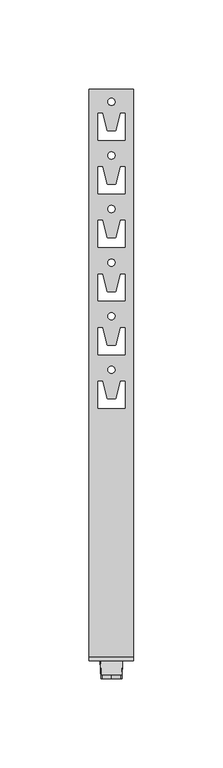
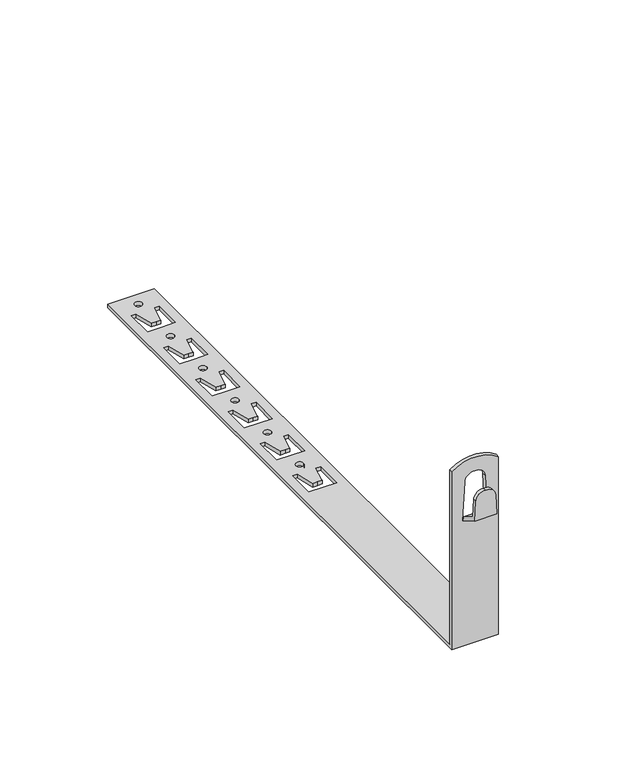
"""IFC4 building model written with IfcOpenShell, lengths in millimetres: proxy geometry, КНС_ДержательПрямойПодЧерепицу_DKC : ND2209_Сталь горячеоцинкованная_330 мм."""

from ifc_helpers import new_model, si_unit, frame, origin, place, context, project, spatial, polyline, circle_curve, source, transform, mapped, element, save
from ifc_brep_helpers import plane_surface, cylinder_surface, revolved_surface, advanced_brep


def security_devices_d11747f8(model_context):
    return source(origin(), model_context, "Body", "AdvancedBrep", [
        advanced_brep(
        [(5.3645288, 0.0, 87.6660817), (0.0, 0.0, 92.1674559), (-5.3645288, 0.0, 87.6660817), (-5.9353846, 0.0, 76.7735027), (5.9353846, 0.0, 76.7735027), (6.2379611, 10.0, 71.0), (-6.2379611, 10.0, 71.0), (-6.1169305, 10.0, 73.3094011), (6.1169305, 10.0, 73.3094011), (-5.3645288, 2.0, 87.6660817), (-5.8748694, 2.0, 77.9282032), (5.8748694, 2.0, 77.9282032), (5.3645288, 2.0, 87.6660817), (0.0, 2.0, 92.1674559)],
        [
            (0, 1, circle_curve(frame((0.5834648, 0.0, 87.4155168), z_axis=(0.0, -1.0, 0.0), x_axis=(1.0, 0.0, 0.0)), 4.7876253)),
            (1, 2, circle_curve(frame((-0.5834648, 0.0, 87.4155168), z_axis=(0.0, -1.0, 0.0), x_axis=(1.0, 0.0, 0.0)), 4.7876253)),
            (2, 3),
            (3, 4),
            (4, 0),
            (5, 6),
            (6, 7),
            (7, 8),
            (8, 5),
            (2, 9),
            (9, 10),
            (10, 7),
            (6, 3),
            (4, 5),
            (8, 11),
            (11, 12),
            (12, 0),
            (12, 13, circle_curve(frame((0.5834648, 2.0, 87.4155168), z_axis=(0.0, -1.0, 0.0), x_axis=(1.0, 0.0, 0.0)), 4.7876253)),
            (13, 1),
            (13, 9, circle_curve(frame((-0.5834648, 2.0, 87.4155168), z_axis=(0.0, -1.0, 0.0), x_axis=(1.0, 0.0, 0.0)), 4.7876253)),
            (10, 11),
        ],
        [
            plane_surface(frame((-6.2414541, 0.0, 70.9333499), z_axis=(0.0, -1.0, 0.0), x_axis=(-0.05233595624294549, 0.0, -0.9986295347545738))),
            plane_surface(frame((-6.2414541, 10.0, 70.9333499), z_axis=(0.0, 1.0, 0.0), x_axis=(0.05233595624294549, 0.0, 0.9986295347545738))),
            plane_surface(frame((-5.3645288, 0.0, 87.6660817), z_axis=(-0.9986295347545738, 0.0, 0.05233595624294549), x_axis=(0.0, 1.0, 0.0))),
            plane_surface(frame((6.2379611, 0.0, 71.0), z_axis=(0.9986295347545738, 0.0, 0.05233595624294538), x_axis=(0.0, 1.0, 0.0))),
            cylinder_surface(frame((0.5834648, 10.0, 87.4155168), z_axis=(0.0, -1.0, 0.0), x_axis=(1.0, 0.0, 0.0)), 4.7876253),
            cylinder_surface(frame((-0.5834648, 10.0, 87.4155168), z_axis=(0.0, -1.0, 0.0), x_axis=(1.0, 0.0, 0.0)), 4.7876253),
            plane_surface(frame((12.5, 10.0, 71.0), z_axis=(0.0, -0.5000000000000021, -0.8660254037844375), x_axis=(-1.0, 0.0, 0.0))),
            plane_surface(frame((12.5, 2.0, 77.9282032), z_axis=(0.0, 0.5000000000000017, 0.8660254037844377), x_axis=(-1.0, 0.0, 0.0))),
            plane_surface(frame((12.5, 2.0, 102.9372685), z_axis=(0.0, 1.0, 0.0), x_axis=(-1.0, 0.0, 0.0))),
        ],
        [
            (0, [[1, 2, 3, 4, 5]]),
            (1, [[6, 7, 8, 9]]),
            (2, [[-3, 10, 11, 12, -7, 13]]),
            (3, [[-5, 14, -9, 15, 16, 17]]),
            (4, [[-1, -17, 18, 19]]),
            (5, [[-2, -19, 20, -10]]),
            (6, [[-4, -13, -6, -14]]),
            (7, [[21, -15, -8, -12]]),
            (8, [[-21, -11, -20, -18, -16]]),
        ],
    ),
        advanced_brep(
        [(12.5, 330.0, 2.0), (-12.5, 330.0, 2.0), (-12.5, 12.0, 2.0), (12.5, 12.0, 2.0), (-2.0, 322.9763791, 2.0), (2.0, 322.9763791, 2.0), (-7.5, 301.5, 2.0), (-7.5, 316.5981413, 2.0), (-5.0452497, 316.5981413, 2.0), (-2.5276553, 306.5, 2.0), (0.0, 306.5, 2.0), (2.5276553, 306.5, 2.0), (5.0452497, 316.5981413, 2.0), (7.5, 316.5981413, 2.0), (7.5, 301.5, 2.0), (0.0, 301.5, 2.0), (-2.0, 292.9763791, 2.0), (2.0, 292.9763791, 2.0), (-7.5, 271.5, 2.0), (-7.5, 286.5981413, 2.0), (-5.0452497, 286.5981413, 2.0), (-2.5276553, 276.5, 2.0), (0.0, 276.5, 2.0), (2.5276553, 276.5, 2.0), (5.0452497, 286.5981413, 2.0), (7.5, 286.5981413, 2.0), (7.5, 271.5, 2.0), (0.0, 271.5, 2.0), (-2.0, 262.9763791, 2.0), (2.0, 262.9763791, 2.0), (-7.5, 241.5, 2.0), (-7.5, 256.5981413, 2.0), (-5.0452497, 256.5981413, 2.0), (-2.5276553, 246.5, 2.0), (0.0, 246.5, 2.0), (2.5276553, 246.5, 2.0), (5.0452497, 256.5981413, 2.0), (7.5, 256.5981413, 2.0), (7.5, 241.5, 2.0), (0.0, 241.5, 2.0), (-2.0, 232.9763791, 2.0), (2.0, 232.9763791, 2.0), (-7.5, 211.5, 2.0), (-7.5, 226.5981413, 2.0), (-5.0452497, 226.5981413, 2.0), (-2.5276553, 216.5, 2.0), (0.0, 216.5, 2.0), (2.5276553, 216.5, 2.0), (5.0452497, 226.5981413, 2.0), (7.5, 226.5981413, 2.0), (7.5, 211.5, 2.0), (0.0, 211.5, 2.0), (-2.0, 202.9763791, 2.0), (2.0, 202.9763791, 2.0), (-7.5, 181.5, 2.0), (-7.5, 196.5981413, 2.0), (-5.0452497, 196.5981413, 2.0), (-2.5276553, 186.5, 2.0), (0.0, 186.5, 2.0), (2.5276553, 186.5, 2.0), (5.0452497, 196.5981413, 2.0), (7.5, 196.5981413, 2.0), (7.5, 181.5, 2.0), (0.0, 181.5, 2.0), (-2.0, 172.9763791, 2.0), (2.0, 172.9763791, 2.0), (-7.5, 151.5, 2.0), (-7.5, 166.5981413, 2.0), (-5.0452497, 166.5981413, 2.0), (-2.5276553, 156.5, 2.0), (0.0, 156.5, 2.0), (2.5276553, 156.5, 2.0), (5.0452497, 166.5981413, 2.0), (7.5, 166.5981413, 2.0), (7.5, 151.5, 2.0), (0.0, 151.5, 2.0), (12.5, 330.0, 0.0), (12.5, 10.0, 0.0), (-12.5, 10.0, 0.0), (-12.5, 330.0, 0.0), (-2.0, 322.9763791, 0.0), (2.0, 322.9763791, 0.0), (-7.5, 301.5, 0.0), (0.0, 301.5, 0.0), (7.5, 301.5, 0.0), (7.5, 316.5981413, 0.0), (5.0452497, 316.5981413, 0.0), (2.5276553, 306.5, 0.0), (0.0, 306.5, 0.0), (-2.5276553, 306.5, 0.0), (-5.0452497, 316.5981413, 0.0), (-7.5, 316.5981413, 0.0), (-2.0, 292.9763791, 0.0), (2.0, 292.9763791, 0.0), (-7.5, 271.5, 0.0), (0.0, 271.5, 0.0), (7.5, 271.5, 0.0), (7.5, 286.5981413, 0.0), (5.0452497, 286.5981413, 0.0), (2.5276553, 276.5, 0.0), (0.0, 276.5, 0.0), (-2.5276553, 276.5, 0.0), (-5.0452497, 286.5981413, 0.0), (-7.5, 286.5981413, 0.0), (-2.0, 262.9763791, 0.0), (2.0, 262.9763791, 0.0), (-7.5, 241.5, 0.0), (0.0, 241.5, 0.0), (7.5, 241.5, 0.0), (7.5, 256.5981413, 0.0), (5.0452497, 256.5981413, 0.0), (2.5276553, 246.5, 0.0), (0.0, 246.5, 0.0), (-2.5276553, 246.5, 0.0), (-5.0452497, 256.5981413, 0.0), (-7.5, 256.5981413, 0.0), (-2.0, 232.9763791, 0.0), (2.0, 232.9763791, 0.0), (-7.5, 211.5, 0.0), (0.0, 211.5, 0.0), (7.5, 211.5, 0.0), (7.5, 226.5981413, 0.0), (5.0452497, 226.5981413, 0.0), (2.5276553, 216.5, 0.0), (0.0, 216.5, 0.0), (-2.5276553, 216.5, 0.0), (-5.0452497, 226.5981413, 0.0), (-7.5, 226.5981413, 0.0), (-2.0, 202.9763791, 0.0), (2.0, 202.9763791, 0.0), (-7.5, 181.5, 0.0), (0.0, 181.5, 0.0), (7.5, 181.5, 0.0), (7.5, 196.5981413, 0.0), (5.0452497, 196.5981413, 0.0), (2.5276553, 186.5, 0.0), (0.0, 186.5, 0.0), (-2.5276553, 186.5, 0.0), (-5.0452497, 196.5981413, 0.0), (-7.5, 196.5981413, 0.0), (-2.0, 172.9763791, 0.0), (2.0, 172.9763791, 0.0), (-7.5, 151.5, 0.0), (0.0, 151.5, 0.0), (7.5, 151.5, 0.0), (7.5, 166.5981413, 0.0), (5.0452497, 166.5981413, 0.0), (2.5276553, 156.5, 0.0), (0.0, 156.5, 0.0), (-2.5276553, 156.5, 0.0), (-5.0452497, 166.5981413, 0.0), (-7.5, 166.5981413, 0.0), (-12.5, 10.0, 100.874537), (-12.5, 12.0, 100.874537), (12.5, 10.0, 100.874537), (-5.3645288, 10.0, 92.6660817), (0.0, 10.0, 97.1674559), (5.3645288, 10.0, 92.6660817), (6.5, 10.0, 71.0), (-6.5, 10.0, 71.0), (12.5, 12.0, 100.874537), (-5.3645288, 12.0, 92.6660817), (-6.5, 12.0, 71.0), (6.5, 12.0, 71.0), (5.3645288, 12.0, 92.6660817), (0.0, 12.0, 97.1674559)],
        [
            (0, 1),
            (1, 2),
            (2, 3),
            (3, 0),
            (4, 5, circle_curve(frame((0.0, 322.9763791, 2.0), z_axis=(0.0, 0.0, -1.0), x_axis=(1.0, 0.0, 0.0)), 2.0)),
            (5, 4, circle_curve(frame((0.0, 322.9763791, 2.0), z_axis=(0.0, 0.0, -1.0), x_axis=(1.0, 0.0, 0.0)), 2.0)),
            (6, 7),
            (7, 8),
            (8, 9),
            (9, 10),
            (10, 11),
            (11, 12),
            (12, 13),
            (13, 14),
            (14, 15),
            (15, 6),
            (16, 17, circle_curve(frame((0.0, 292.9763791, 2.0), z_axis=(0.0, 0.0, -1.0), x_axis=(1.0, 0.0, 0.0)), 2.0)),
            (17, 16, circle_curve(frame((0.0, 292.9763791, 2.0), z_axis=(0.0, 0.0, -1.0), x_axis=(1.0, 0.0, 0.0)), 2.0)),
            (18, 19),
            (19, 20),
            (20, 21),
            (21, 22),
            (22, 23),
            (23, 24),
            (24, 25),
            (25, 26),
            (26, 27),
            (27, 18),
            (28, 29, circle_curve(frame((0.0, 262.9763791, 2.0), z_axis=(0.0, 0.0, -1.0), x_axis=(1.0, 0.0, 0.0)), 2.0)),
            (29, 28, circle_curve(frame((0.0, 262.9763791, 2.0), z_axis=(0.0, 0.0, -1.0), x_axis=(1.0, 0.0, 0.0)), 2.0)),
            (30, 31),
            (31, 32),
            (32, 33),
            (33, 34),
            (34, 35),
            (35, 36),
            (36, 37),
            (37, 38),
            (38, 39),
            (39, 30),
            (40, 41, circle_curve(frame((0.0, 232.9763791, 2.0), z_axis=(0.0, 0.0, -1.0), x_axis=(1.0, 0.0, 0.0)), 2.0)),
            (41, 40, circle_curve(frame((0.0, 232.9763791, 2.0), z_axis=(0.0, 0.0, -1.0), x_axis=(1.0, 0.0, 0.0)), 2.0)),
            (42, 43),
            (43, 44),
            (44, 45),
            (45, 46),
            (46, 47),
            (47, 48),
            (48, 49),
            (49, 50),
            (50, 51),
            (51, 42),
            (52, 53, circle_curve(frame((0.0, 202.9763791, 2.0), z_axis=(0.0, 0.0, -1.0), x_axis=(1.0, 0.0, 0.0)), 2.0)),
            (53, 52, circle_curve(frame((0.0, 202.9763791, 2.0), z_axis=(0.0, 0.0, -1.0), x_axis=(1.0, 0.0, 0.0)), 2.0)),
            (54, 55),
            (55, 56),
            (56, 57),
            (57, 58),
            (58, 59),
            (59, 60),
            (60, 61),
            (61, 62),
            (62, 63),
            (63, 54),
            (64, 65, circle_curve(frame((0.0, 172.9763791, 2.0), z_axis=(0.0, 0.0, -1.0), x_axis=(1.0, 0.0, 0.0)), 2.0)),
            (65, 64, circle_curve(frame((0.0, 172.9763791, 2.0), z_axis=(0.0, 0.0, -1.0), x_axis=(1.0, 0.0, 0.0)), 2.0)),
            (66, 67),
            (67, 68),
            (68, 69),
            (69, 70),
            (70, 71),
            (71, 72),
            (72, 73),
            (73, 74),
            (74, 75),
            (75, 66),
            (76, 77),
            (77, 78),
            (78, 79),
            (79, 76),
            (80, 81, circle_curve(frame((0.0, 322.9763791, 0.0), z_axis=(0.0, 0.0, 1.0), x_axis=(1.0, 0.0, 0.0)), 2.0)),
            (81, 80, circle_curve(frame((0.0, 322.9763791, 0.0), z_axis=(0.0, 0.0, 1.0), x_axis=(1.0, 0.0, 0.0)), 2.0)),
            (82, 83),
            (83, 84),
            (84, 85),
            (85, 86),
            (86, 87),
            (87, 88),
            (88, 89),
            (89, 90),
            (90, 91),
            (91, 82),
            (92, 93, circle_curve(frame((0.0, 292.9763791, 0.0), z_axis=(0.0, 0.0, 1.0), x_axis=(1.0, 0.0, 0.0)), 2.0)),
            (93, 92, circle_curve(frame((0.0, 292.9763791, 0.0), z_axis=(0.0, 0.0, 1.0), x_axis=(1.0, 0.0, 0.0)), 2.0)),
            (94, 95),
            (95, 96),
            (96, 97),
            (97, 98),
            (98, 99),
            (99, 100),
            (100, 101),
            (101, 102),
            (102, 103),
            (103, 94),
            (104, 105, circle_curve(frame((0.0, 262.9763791, 0.0), z_axis=(0.0, 0.0, 1.0), x_axis=(1.0, 0.0, 0.0)), 2.0)),
            (105, 104, circle_curve(frame((0.0, 262.9763791, 0.0), z_axis=(0.0, 0.0, 1.0), x_axis=(1.0, 0.0, 0.0)), 2.0)),
            (106, 107),
            (107, 108),
            (108, 109),
            (109, 110),
            (110, 111),
            (111, 112),
            (112, 113),
            (113, 114),
            (114, 115),
            (115, 106),
            (116, 117, circle_curve(frame((0.0, 232.9763791, 0.0), z_axis=(0.0, 0.0, 1.0), x_axis=(1.0, 0.0, 0.0)), 2.0)),
            (117, 116, circle_curve(frame((0.0, 232.9763791, 0.0), z_axis=(0.0, 0.0, 1.0), x_axis=(1.0, 0.0, 0.0)), 2.0)),
            (118, 119),
            (119, 120),
            (120, 121),
            (121, 122),
            (122, 123),
            (123, 124),
            (124, 125),
            (125, 126),
            (126, 127),
            (127, 118),
            (128, 129, circle_curve(frame((0.0, 202.9763791, 0.0), z_axis=(0.0, 0.0, 1.0), x_axis=(1.0, 0.0, 0.0)), 2.0)),
            (129, 128, circle_curve(frame((0.0, 202.9763791, 0.0), z_axis=(0.0, 0.0, 1.0), x_axis=(1.0, 0.0, 0.0)), 2.0)),
            (130, 131),
            (131, 132),
            (132, 133),
            (133, 134),
            (134, 135),
            (135, 136),
            (136, 137),
            (137, 138),
            (138, 139),
            (139, 130),
            (140, 141, circle_curve(frame((0.0, 172.9763791, 0.0), z_axis=(0.0, 0.0, 1.0), x_axis=(1.0, 0.0, 0.0)), 2.0)),
            (141, 140, circle_curve(frame((0.0, 172.9763791, 0.0), z_axis=(0.0, 0.0, 1.0), x_axis=(1.0, 0.0, 0.0)), 2.0)),
            (142, 143),
            (143, 144),
            (144, 145),
            (145, 146),
            (146, 147),
            (147, 148),
            (148, 149),
            (149, 150),
            (150, 151),
            (151, 142),
            (0, 76),
            (79, 1),
            (78, 152),
            (152, 153),
            (153, 2),
            (77, 154),
            (154, 152, circle_curve(frame((0.0, 10.0, 84.0), z_axis=(0.0, -1.0, 0.0), x_axis=(1.0, 0.0, 0.0)), 21.0)),
            (155, 156, circle_curve(frame((-0.5834648, 10.0, 92.4155168), z_axis=(0.0, 1.0, 0.0), x_axis=(1.0, 0.0, 0.0)), 4.7876253)),
            (156, 157, circle_curve(frame((0.5834648, 10.0, 92.4155168), z_axis=(0.0, 1.0, 0.0), x_axis=(1.0, 0.0, 0.0)), 4.7876253)),
            (157, 158),
            (158, 159),
            (159, 155),
            (3, 160),
            (160, 154),
            (4, 80),
            (81, 5),
            (6, 82),
            (91, 7),
            (90, 8),
            (89, 9),
            (88, 10),
            (87, 11),
            (86, 12),
            (85, 13),
            (84, 14),
            (83, 15),
            (16, 92),
            (93, 17),
            (18, 94),
            (103, 19),
            (102, 20),
            (101, 21),
            (100, 22),
            (99, 23),
            (98, 24),
            (97, 25),
            (96, 26),
            (95, 27),
            (28, 104),
            (105, 29),
            (30, 106),
            (115, 31),
            (114, 32),
            (113, 33),
            (112, 34),
            (111, 35),
            (110, 36),
            (109, 37),
            (108, 38),
            (107, 39),
            (40, 116),
            (117, 41),
            (42, 118),
            (127, 43),
            (126, 44),
            (125, 45),
            (124, 46),
            (123, 47),
            (122, 48),
            (121, 49),
            (120, 50),
            (119, 51),
            (52, 128),
            (129, 53),
            (54, 130),
            (139, 55),
            (138, 56),
            (137, 57),
            (136, 58),
            (135, 59),
            (134, 60),
            (133, 61),
            (132, 62),
            (131, 63),
            (64, 140),
            (141, 65),
            (66, 142),
            (151, 67),
            (150, 68),
            (149, 69),
            (148, 70),
            (147, 71),
            (146, 72),
            (145, 73),
            (144, 74),
            (143, 75),
            (153, 160, circle_curve(frame((0.0, 12.0, 84.0), z_axis=(0.0, 1.0, 0.0), x_axis=(1.0, 0.0, 0.0)), 21.0)),
            (161, 162),
            (162, 163),
            (163, 164),
            (164, 165, circle_curve(frame((0.5834648, 12.0, 92.4155168), z_axis=(0.0, -1.0, 0.0), x_axis=(1.0, 0.0, 0.0)), 4.7876253)),
            (165, 161, circle_curve(frame((-0.5834648, 12.0, 92.4155168), z_axis=(0.0, -1.0, 0.0), x_axis=(1.0, 0.0, 0.0)), 4.7876253)),
            (155, 161),
            (165, 156),
            (164, 157),
            (163, 158),
            (162, 159),
        ],
        [
            plane_surface(frame((-12.5, 330.0, 2.0), z_axis=(0.0, 0.0, 1.0), x_axis=(-1.0, 0.0, 0.0))),
            plane_surface(frame((-12.5, 330.0, 0.0), z_axis=(0.0, 0.0, -1.0), x_axis=(1.0, 0.0, 0.0))),
            plane_surface(frame((12.5, 330.0, 2.0), z_axis=(0.0, 1.0, 0.0), x_axis=(0.0, 0.0, -1.0))),
            plane_surface(frame((-12.5, 330.0, 2.0), z_axis=(-1.0, 0.0, 0.0), x_axis=(0.0, 0.0, -1.0))),
            plane_surface(frame((-12.5, 10.0, 2.0), z_axis=(0.0, -1.0, 0.0), x_axis=(0.0, 0.0, -1.0))),
            plane_surface(frame((12.5, 10.0, 2.0), z_axis=(1.0, 0.0, 0.0), x_axis=(0.0, 0.0, -1.0))),
            revolved_surface(polyline([(2.0, 322.9763791, 0.0), (2.0, 322.9763791, 2.0)]), (0.0, 322.9763791, 0.0), (0.0, 0.0, -1.0)),
            plane_surface(frame((-7.5, 301.5, 2.0), z_axis=(1.0, 0.0, 0.0), x_axis=(0.0, 0.0, -1.0))),
            plane_surface(frame((-7.5, 316.5981413, 2.0), z_axis=(0.0, -1.0, 0.0), x_axis=(0.0, 0.0, -1.0))),
            plane_surface(frame((-5.0452497, 316.5981413, 2.0), z_axis=(-0.9702992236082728, -0.2419078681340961, 0.0), x_axis=(0.0, 0.0, -1.0))),
            plane_surface(frame((-2.5276553, 306.5, 2.0), z_axis=(0.0, -1.0, 0.0), x_axis=(0.0, 0.0, -1.0))),
            plane_surface(frame((0.0, 306.5, 2.0), z_axis=(0.0, -1.0, 0.0), x_axis=(0.0, 0.0, -1.0))),
            plane_surface(frame((2.5276553, 306.5, 2.0), z_axis=(0.9702992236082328, -0.2419078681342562, 0.0), x_axis=(0.0, 0.0, -1.0))),
            plane_surface(frame((5.0452497, 316.5981413, 2.0), z_axis=(0.0, -1.0, 0.0), x_axis=(0.0, 0.0, -1.0))),
            plane_surface(frame((7.5, 316.5981413, 2.0), z_axis=(-1.0, 0.0, 0.0), x_axis=(0.0, 0.0, -1.0))),
            plane_surface(frame((7.5, 301.5, 2.0), z_axis=(0.0, 1.0, 0.0), x_axis=(0.0, 0.0, -1.0))),
            plane_surface(frame((0.0, 301.5, 2.0), z_axis=(0.0, 1.0, 0.0), x_axis=(0.0, 0.0, -1.0))),
            revolved_surface(polyline([(2.0, 292.9763791, 0.0), (2.0, 292.9763791, 2.0)]), (0.0, 292.9763791, 0.0), (0.0, 0.0, -1.0)),
            plane_surface(frame((-7.5, 271.5, 2.0), z_axis=(1.0, 0.0, 0.0), x_axis=(0.0, 0.0, -1.0))),
            plane_surface(frame((-7.5, 286.5981413, 2.0), z_axis=(0.0, -1.0, 0.0), x_axis=(0.0, 0.0, -1.0))),
            plane_surface(frame((-5.0452497, 286.5981413, 2.0), z_axis=(-0.9702992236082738, -0.24190786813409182, 0.0), x_axis=(0.0, 0.0, -1.0))),
            plane_surface(frame((-2.5276553, 276.5, 2.0), z_axis=(0.0, -1.0, 0.0), x_axis=(0.0, 0.0, -1.0))),
            plane_surface(frame((0.0, 276.5, 2.0), z_axis=(0.0, -1.0, 0.0), x_axis=(0.0, 0.0, -1.0))),
            plane_surface(frame((2.5276553, 276.5, 2.0), z_axis=(0.9702992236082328, -0.24190786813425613, 0.0), x_axis=(0.0, 0.0, -1.0))),
            plane_surface(frame((5.0452497, 286.5981413, 2.0), z_axis=(0.0, -1.0, 0.0), x_axis=(0.0, 0.0, -1.0))),
            plane_surface(frame((7.5, 286.5981413, 2.0), z_axis=(-1.0, 0.0, 0.0), x_axis=(0.0, 0.0, -1.0))),
            plane_surface(frame((7.5, 271.5, 2.0), z_axis=(0.0, 1.0, 0.0), x_axis=(0.0, 0.0, -1.0))),
            plane_surface(frame((0.0, 271.5, 2.0), z_axis=(0.0, 1.0, 0.0), x_axis=(0.0, 0.0, -1.0))),
            revolved_surface(polyline([(2.0, 262.9763791, 0.0), (2.0, 262.9763791, 2.0)]), (0.0, 262.9763791, 0.0), (0.0, 0.0, -1.0)),
            plane_surface(frame((-7.5, 241.5, 2.0), z_axis=(1.0, 0.0, 0.0), x_axis=(0.0, 0.0, -1.0))),
            plane_surface(frame((-7.5, 256.5981413, 2.0), z_axis=(0.0, -1.0, 0.0), x_axis=(0.0, 0.0, -1.0))),
            plane_surface(frame((-5.0452497, 256.5981413, 2.0), z_axis=(-0.9702992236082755, -0.24190786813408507, 0.0), x_axis=(0.0, 0.0, -1.0))),
            plane_surface(frame((-2.5276553, 246.5, 2.0), z_axis=(0.0, -1.0, 0.0), x_axis=(0.0, 0.0, -1.0))),
            plane_surface(frame((0.0, 246.5, 2.0), z_axis=(0.0, -1.0, 0.0), x_axis=(0.0, 0.0, -1.0))),
            plane_surface(frame((2.5276553, 246.5, 2.0), z_axis=(0.9702992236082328, -0.24190786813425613, 0.0), x_axis=(0.0, 0.0, -1.0))),
            plane_surface(frame((5.0452497, 256.5981413, 2.0), z_axis=(0.0, -1.0, 0.0), x_axis=(0.0, 0.0, -1.0))),
            plane_surface(frame((7.5, 256.5981413, 2.0), z_axis=(-1.0, 0.0, 0.0), x_axis=(0.0, 0.0, -1.0))),
            plane_surface(frame((7.5, 241.5, 2.0), z_axis=(0.0, 1.0, 0.0), x_axis=(0.0, 0.0, -1.0))),
            plane_surface(frame((0.0, 241.5, 2.0), z_axis=(0.0, 1.0, 0.0), x_axis=(0.0, 0.0, -1.0))),
            revolved_surface(polyline([(2.0, 232.9763791, 0.0), (2.0, 232.9763791, 2.0)]), (0.0, 232.9763791, 0.0), (0.0, 0.0, -1.0)),
            plane_surface(frame((-7.5, 211.5, 2.0), z_axis=(1.0, 0.0, 0.0), x_axis=(0.0, 0.0, -1.0))),
            plane_surface(frame((-7.5, 226.5981413, 2.0), z_axis=(0.0, -1.0, 0.0), x_axis=(0.0, 0.0, -1.0))),
            plane_surface(frame((-5.0452497, 226.5981413, 2.0), z_axis=(-0.970299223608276, -0.24190786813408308, 0.0), x_axis=(0.0, 0.0, -1.0))),
            plane_surface(frame((-2.5276553, 216.5, 2.0), z_axis=(0.0, -1.0, 0.0), x_axis=(0.0, 0.0, -1.0))),
            plane_surface(frame((0.0, 216.5, 2.0), z_axis=(0.0, -1.0, 0.0), x_axis=(0.0, 0.0, -1.0))),
            plane_surface(frame((2.5276553, 216.5, 2.0), z_axis=(0.9702992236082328, -0.24190786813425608, 0.0), x_axis=(0.0, 0.0, -1.0))),
            plane_surface(frame((5.0452497, 226.5981413, 2.0), z_axis=(0.0, -1.0, 0.0), x_axis=(0.0, 0.0, -1.0))),
            plane_surface(frame((7.5, 226.5981413, 2.0), z_axis=(-1.0, 0.0, 0.0), x_axis=(0.0, 0.0, -1.0))),
            plane_surface(frame((7.5, 211.5, 2.0), z_axis=(0.0, 1.0, 0.0), x_axis=(0.0, 0.0, -1.0))),
            plane_surface(frame((0.0, 211.5, 2.0), z_axis=(0.0, 1.0, 0.0), x_axis=(0.0, 0.0, -1.0))),
            revolved_surface(polyline([(2.0, 202.9763791, 0.0), (2.0, 202.9763791, 2.0)]), (0.0, 202.9763791, 0.0), (0.0, 0.0, -1.0)),
            plane_surface(frame((-7.5, 181.5, 2.0), z_axis=(1.0, 0.0, 0.0), x_axis=(0.0, 0.0, -1.0))),
            plane_surface(frame((-7.5, 196.5981413, 2.0), z_axis=(0.0, -1.0, 0.0), x_axis=(0.0, 0.0, -1.0))),
            plane_surface(frame((-5.0452497, 196.5981413, 2.0), z_axis=(-0.9702992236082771, -0.24190786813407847, 0.0), x_axis=(0.0, 0.0, -1.0))),
            plane_surface(frame((-2.5276553, 186.5, 2.0), z_axis=(0.0, -1.0, 0.0), x_axis=(0.0, 0.0, -1.0))),
            plane_surface(frame((0.0, 186.5, 2.0), z_axis=(0.0, -1.0, 0.0), x_axis=(0.0, 0.0, -1.0))),
            plane_surface(frame((2.5276553, 186.5, 2.0), z_axis=(0.9702992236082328, -0.24190786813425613, 0.0), x_axis=(0.0, 0.0, -1.0))),
            plane_surface(frame((5.0452497, 196.5981413, 2.0), z_axis=(0.0, -1.0, 0.0), x_axis=(0.0, 0.0, -1.0))),
            plane_surface(frame((7.5, 196.5981413, 2.0), z_axis=(-1.0, 0.0, 0.0), x_axis=(0.0, 0.0, -1.0))),
            plane_surface(frame((7.5, 181.5, 2.0), z_axis=(0.0, 1.0, 0.0), x_axis=(0.0, 0.0, -1.0))),
            plane_surface(frame((0.0, 181.5, 2.0), z_axis=(0.0, 1.0, 0.0), x_axis=(0.0, 0.0, -1.0))),
            revolved_surface(polyline([(2.0, 172.9763791, 0.0), (2.0, 172.9763791, 2.0)]), (0.0, 172.9763791, 0.0), (0.0, 0.0, -1.0)),
            plane_surface(frame((-7.5, 151.5, 2.0), z_axis=(1.0, 0.0, 0.0), x_axis=(0.0, 0.0, -1.0))),
            plane_surface(frame((-7.5, 166.5981413, 2.0), z_axis=(0.0, -1.0, 0.0), x_axis=(0.0, 0.0, -1.0))),
            plane_surface(frame((-5.0452497, 166.5981413, 2.0), z_axis=(-0.9702992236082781, -0.2419078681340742, 0.0), x_axis=(0.0, 0.0, -1.0))),
            plane_surface(frame((-2.5276553, 156.5, 2.0), z_axis=(0.0, -1.0, 0.0), x_axis=(0.0, 0.0, -1.0))),
            plane_surface(frame((0.0, 156.5, 2.0), z_axis=(0.0, -1.0, 0.0), x_axis=(0.0, 0.0, -1.0))),
            plane_surface(frame((2.5276553, 156.5, 2.0), z_axis=(0.9702992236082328, -0.2419078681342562, 0.0), x_axis=(0.0, 0.0, -1.0))),
            plane_surface(frame((5.0452497, 166.5981413, 2.0), z_axis=(0.0, -1.0, 0.0), x_axis=(0.0, 0.0, -1.0))),
            plane_surface(frame((7.5, 166.5981413, 2.0), z_axis=(-1.0, 0.0, 0.0), x_axis=(0.0, 0.0, -1.0))),
            plane_surface(frame((7.5, 151.5, 2.0), z_axis=(0.0, 1.0, 0.0), x_axis=(0.0, 0.0, -1.0))),
            plane_surface(frame((0.0, 151.5, 2.0), z_axis=(0.0, 1.0, 0.0), x_axis=(0.0, 0.0, -1.0))),
            plane_surface(frame((-12.5, 12.0, 65.0), z_axis=(0.0, 1.0, 0.0), x_axis=(0.0, 0.0, 1.0))),
            cylinder_surface(frame((0.0, 12.0, 84.0), z_axis=(0.0, -1.0, 0.0), x_axis=(1.0, 0.0, 0.0)), 21.0),
            revolved_surface(polyline([(4.2041605, 12.0, 92.4155168), (4.2041605, 10.0, 92.4155168)]), (-0.5834648, 0.0, 92.4155168), (0.0, 1.0, 0.0)),
            revolved_surface(polyline([(5.3710901, 12.0, 92.4155168), (5.3710901, 10.0, 92.4155168)]), (0.5834648, 0.0, 92.4155168), (0.0, 1.0, 0.0)),
            plane_surface(frame((5.3645288, 10.0, 92.6660817), z_axis=(-0.9986295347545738, 0.0, -0.0523359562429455), x_axis=(0.0, 1.0, 0.0))),
            plane_surface(frame((6.5, 10.0, 71.0), z_axis=(0.0, 0.0, 1.0), x_axis=(0.0, 1.0, 0.0))),
            plane_surface(frame((-6.5, 10.0, 71.0), z_axis=(0.9986295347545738, 0.0, -0.052335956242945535), x_axis=(0.0, 1.0, 0.0))),
        ],
        [
            (0, [[1, 2, 3, 4], [5, 6], [7, 8, 9, 10, 11, 12, 13, 14, 15, 16], [17, 18], [19, 20, 21, 22, 23, 24, 25, 26, 27, 28], [29, 30], [31, 32, 33, 34, 35, 36, 37, 38, 39, 40], [41, 42], [43, 44, 45, 46, 47, 48, 49, 50, 51, 52], [53, 54], [55, 56, 57, 58, 59, 60, 61, 62, 63, 64], [65, 66], [67, 68, 69, 70, 71, 72, 73, 74, 75, 76]]),
            (1, [[77, 78, 79, 80], [81, 82], [83, 84, 85, 86, 87, 88, 89, 90, 91, 92], [93, 94], [95, 96, 97, 98, 99, 100, 101, 102, 103, 104], [105, 106], [107, 108, 109, 110, 111, 112, 113, 114, 115, 116], [117, 118], [119, 120, 121, 122, 123, 124, 125, 126, 127, 128], [129, 130], [131, 132, 133, 134, 135, 136, 137, 138, 139, 140], [141, 142], [143, 144, 145, 146, 147, 148, 149, 150, 151, 152]]),
            (2, [[-1, 153, -80, 154]]),
            (3, [[-154, -79, 155, 156, 157, -2]]),
            (4, [[-155, -78, 158, 159], [160, 161, 162, 163, 164]]),
            (5, [[-153, -4, 165, 166, -158, -77]]),
            (6, [[-5, 167, -82, 168]]),
            (6, [[-6, -168, -81, -167]]),
            (7, [[-7, 169, -92, 170]]),
            (8, [[-8, -170, -91, 171]]),
            (9, [[-9, -171, -90, 172]]),
            (10, [[-10, -172, -89, 173]]),
            (11, [[-11, -173, -88, 174]]),
            (12, [[-12, -174, -87, 175]]),
            (13, [[-13, -175, -86, 176]]),
            (14, [[-14, -176, -85, 177]]),
            (15, [[-15, -177, -84, 178]]),
            (16, [[-16, -178, -83, -169]]),
            (17, [[-17, 179, -94, 180]]),
            (17, [[-18, -180, -93, -179]]),
            (18, [[-19, 181, -104, 182]]),
            (19, [[-20, -182, -103, 183]]),
            (20, [[-21, -183, -102, 184]]),
            (21, [[-22, -184, -101, 185]]),
            (22, [[-23, -185, -100, 186]]),
            (23, [[-24, -186, -99, 187]]),
            (24, [[-25, -187, -98, 188]]),
            (25, [[-26, -188, -97, 189]]),
            (26, [[-27, -189, -96, 190]]),
            (27, [[-28, -190, -95, -181]]),
            (28, [[-29, 191, -106, 192]]),
            (28, [[-30, -192, -105, -191]]),
            (29, [[-31, 193, -116, 194]]),
            (30, [[-32, -194, -115, 195]]),
            (31, [[-33, -195, -114, 196]]),
            (32, [[-34, -196, -113, 197]]),
            (33, [[-35, -197, -112, 198]]),
            (34, [[-36, -198, -111, 199]]),
            (35, [[-37, -199, -110, 200]]),
            (36, [[-38, -200, -109, 201]]),
            (37, [[-39, -201, -108, 202]]),
            (38, [[-40, -202, -107, -193]]),
            (39, [[-41, 203, -118, 204]]),
            (39, [[-42, -204, -117, -203]]),
            (40, [[-43, 205, -128, 206]]),
            (41, [[-44, -206, -127, 207]]),
            (42, [[-45, -207, -126, 208]]),
            (43, [[-46, -208, -125, 209]]),
            (44, [[-47, -209, -124, 210]]),
            (45, [[-48, -210, -123, 211]]),
            (46, [[-49, -211, -122, 212]]),
            (47, [[-50, -212, -121, 213]]),
            (48, [[-51, -213, -120, 214]]),
            (49, [[-52, -214, -119, -205]]),
            (50, [[-53, 215, -130, 216]]),
            (50, [[-54, -216, -129, -215]]),
            (51, [[-55, 217, -140, 218]]),
            (52, [[-56, -218, -139, 219]]),
            (53, [[-57, -219, -138, 220]]),
            (54, [[-58, -220, -137, 221]]),
            (55, [[-59, -221, -136, 222]]),
            (56, [[-60, -222, -135, 223]]),
            (57, [[-61, -223, -134, 224]]),
            (58, [[-62, -224, -133, 225]]),
            (59, [[-63, -225, -132, 226]]),
            (60, [[-64, -226, -131, -217]]),
            (61, [[-65, 227, -142, 228]]),
            (61, [[-66, -228, -141, -227]]),
            (62, [[-67, 229, -152, 230]]),
            (63, [[-68, -230, -151, 231]]),
            (64, [[-69, -231, -150, 232]]),
            (65, [[-70, -232, -149, 233]]),
            (66, [[-71, -233, -148, 234]]),
            (67, [[-72, -234, -147, 235]]),
            (68, [[-73, -235, -146, 236]]),
            (69, [[-74, -236, -145, 237]]),
            (70, [[-75, -237, -144, 238]]),
            (71, [[-76, -238, -143, -229]]),
            (72, [[239, -165, -3, -157], [240, 241, 242, 243, 244]]),
            (73, [[-159, -166, -239, -156]]),
            (74, [[-160, 245, -244, 246]]),
            (75, [[-161, -246, -243, 247]]),
            (76, [[-162, -247, -242, 248]]),
            (77, [[-163, -248, -241, 249]]),
            (78, [[-164, -249, -240, -245]]),
        ],
    ),
    ])


if __name__ == "__main__":
    model = new_model("IFC4")
    model_context = context("Model", 3, world=origin())
    ifc_project = project(units=[si_unit("LENGTHUNIT", "METRE", prefix="MILLI")], contexts=[model_context])
    site = spatial("IfcSite", under=ifc_project)
    building = spatial("IfcBuilding", under=site)
    placement = place(None, origin())
    security_devices_shape = security_devices_d11747f8(model_context)
    element("IfcBuildingElementProxy", 1, Name="КНС_ДержательПрямойПодЧерепицу_DKC : ND2209_Сталь горячеоцинкованная_330 мм", ObjectType="КНС_ДержательПрямойПодЧерепицу_DKC : ND2209_Сталь горячеоцинкованная_330 мм", at=placement, inside=building, context=model_context, shape_type="MappedRepresentation", body=[
        mapped(security_devices_shape, transform((0.0, 0.0, 0.0), x_axis=(1.0, 0.0, 0.0), y_axis=(0.0, 1.0, 0.0), z_axis=(0.0, 0.0, 1.0))),
    ])
    save(model, "model.ifc")
